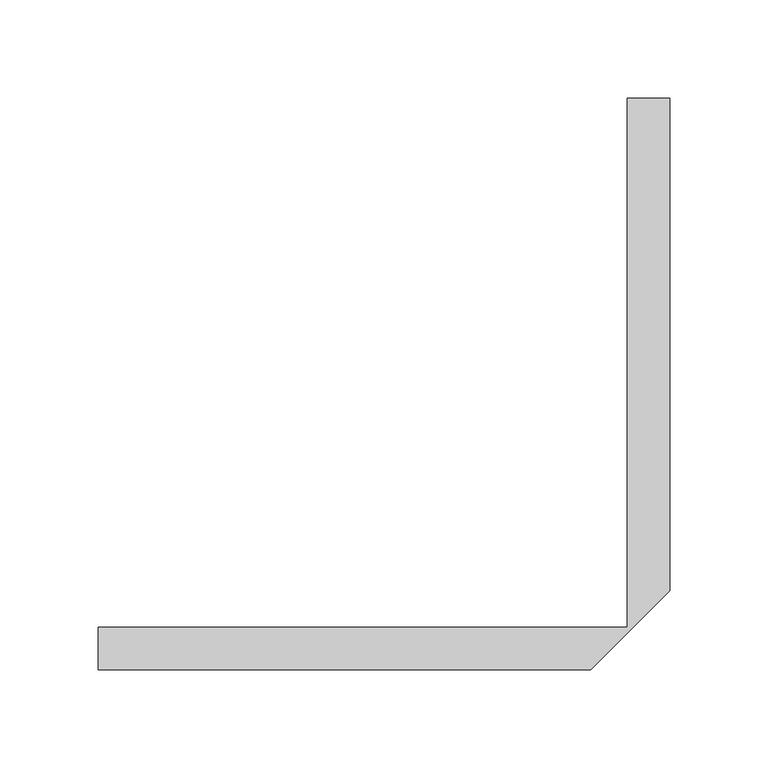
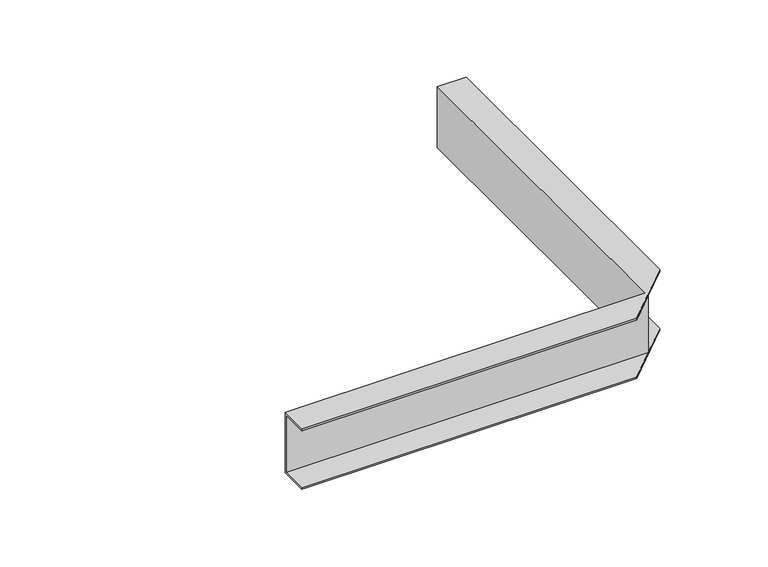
"""IFC4 building model written with IfcOpenShell, lengths in millimetres: cable carrier fitting geometry, BAKS_LD_CONN_Angle connector_LKD : LKDP_H45."""

from ifc_helpers import new_model, si_unit, origin, place, context, project, spatial, faceted_brep, source, transform, mapped, element, save


def cable_carrier_fitting_7be8867b(model_context):
    return source(origin(), model_context, "Body", "Brep", [
        faceted_brep([(20.0, 270.0, 22.5), (20.0, 20.0, 22.5), (0.0, 0.0, 22.5), (0.0, 270.0, 22.5), (20.0, 20.0, 24.0), (20.0, 270.0, 24.0), (20.0, 20.0, -22.5), (20.0, 270.0, -22.5), (0.0, 270.0, -22.5), (0.0, 0.0, -22.5), (20.0, 20.0, -24.0), (20.0, 270.0, -24.0), (-20.0, -20.0, 24.0), (-1.5, 270.0, 24.0), (-1.5, 1.5, 24.0), (-270.0, 1.5, 24.0), (-270.0, -20.0, 24.0), (-270.0, -20.0, 22.5), (-270.0, 0.0, 22.5), (-20.0, -20.0, 22.5), (-270.0, 1.5, -24.0), (-270.0, -20.0, -24.0), (-270.0, -20.0, -22.5), (-270.0, 0.0, -22.5), (-1.5, 270.0, -24.0), (-1.5, 1.5, -24.0), (-20.0, -20.0, -24.0), (-20.0, -20.0, -22.5)], [[[0, 1, 2, 3]], [[4, 1, 0, 5]], [[6, 7, 8, 9]], [[6, 10, 11, 7]], [[12, 4, 5, 13, 14, 15, 16]], [[17, 18, 2, 19]], [[17, 16, 15, 20, 21, 22, 23, 18]], [[2, 1, 4, 12, 19]], [[16, 17, 19, 12]], [[13, 5, 0, 3, 8, 7, 11, 24]], [[24, 25, 14, 13]], [[11, 10, 26, 21, 20, 25, 24]], [[9, 8, 3, 2]], [[25, 20, 15, 14]], [[18, 23, 9, 2]], [[27, 9, 23, 22]], [[22, 21, 26, 27]], [[27, 26, 10, 6, 9]]]),
    ])


if __name__ == "__main__":
    model = new_model("IFC4")
    model_context = context("Model", 3, world=origin())
    ifc_project = project(units=[si_unit("LENGTHUNIT", "METRE", prefix="MILLI")], contexts=[model_context])
    site = spatial("IfcSite", under=ifc_project)
    building = spatial("IfcBuilding", under=site)
    placement = place(None, origin())
    cable_carrier_fitting_shape = cable_carrier_fitting_7be8867b(model_context)
    element("IfcCableCarrierFitting", 1, ObjectType="BAKS_LD_CONN_Angle connector_LKD : LKDP_H45", at=placement, inside=building, context=model_context, shape_type="MappedRepresentation", body=[
        mapped(cable_carrier_fitting_shape, transform((0.0, 0.0, 0.0), x_axis=(1.0, 0.0, 0.0), y_axis=(0.0, 1.0, 0.0), z_axis=(0.0, 0.0, 1.0))),
    ])
    save(model, "model.ifc")
